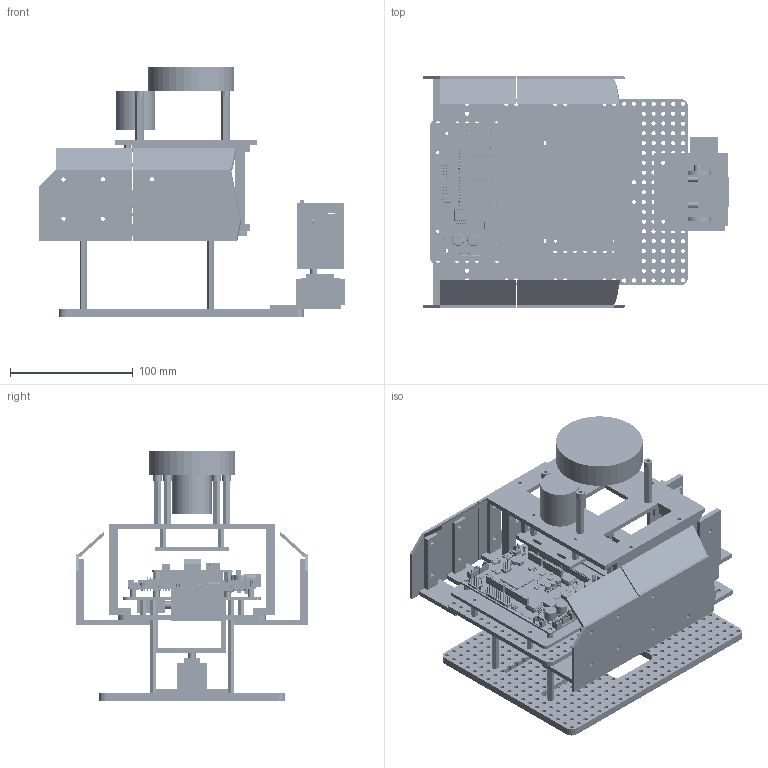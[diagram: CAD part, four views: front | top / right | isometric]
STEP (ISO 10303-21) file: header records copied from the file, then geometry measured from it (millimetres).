
FILE_DESCRIPTION(('Open CASCADE Model'),'2;1');
FILE_NAME('Open CASCADE Shape Model','2026-11-26T11:36:21',('Author'),( 'Open CASCADE'),'Open CASCADE STEP processor 8.0','build123d', 'Unknown');
FILE_SCHEMA(('AUTOMOTIVE_DESIGN { 1 0 10303 214 1 1 1 1 }'));
Length unit declared in the file: millimetre
Products named in the file (143): COMPOUND; chassis; deck; opencr_adapter; pi_adapter; pi_pcb_envelope; deck_column_0; deck_column_1; deck_column_2; deck_column_3; opencr_column_0; opencr_column_1; opencr_column_2; opencr_column_3; pi_column_0; pi_column_1; pi_column_2; pi_column_3; opencr_board_spacer_0; opencr_board_spacer_1; opencr_board_spacer_2; opencr_board_spacer_3; pi_board_spacer_0; pi_board_spacer_1; pi_board_spacer_2; pi_board_spacer_3; bridge_left; bridge_right; bridge_plate; interface_carrier; camera_base; pan_servo_envelope; audio_hat; a1_rotor_envelope; a1_motor_envelope; a1_column_0; a1_foot_envelope_0; a1_column_1; a1_foot_envelope_1; a1_column_2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
Assembly tree (142 placements, depth 3):
  COMPOUND
    chassis
    deck
    opencr_adapter
    pi_adapter
    pi_pcb_envelope
    deck_column_0
    deck_column_1
    deck_column_2
    deck_column_3
    opencr_column_0
    opencr_column_1
    opencr_column_2
    opencr_column_3
    pi_column_0
    pi_column_1
    pi_column_2
    pi_column_3
    opencr_board_spacer_0
    opencr_board_spacer_1
    opencr_board_spacer_2
    opencr_board_spacer_3
    pi_board_spacer_0
    pi_board_spacer_1
    pi_board_spacer_2
    pi_board_spacer_3
    bridge_left
    bridge_right
    bridge_plate
    interface_carrier
    camera_base
    pan_servo_envelope
    audio_hat
    a1_rotor_envelope
    a1_motor_envelope
    a1_column_0
    a1_foot_envelope_0
    a1_column_1
    a1_foot_envelope_1
    a1_column_2
    a1_foot_envelope_2
    a1_column_3
    a1_foot_envelope_3
    interface_column_0
    interface_column_1
    hat_column_0
    hat_column_1
    yoke
    tilt_servo
    cradle
    camera_pcb
    camera_front
    camera_connector
    opencr
      JST_B4B_EH_A
      TO_263_5_TabPin3
      LED_0603_1608Metric
      Part_1
      Part_1
      CP_Elec_10x10
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Bounding box: 249.5 x 188.8 x 203.5 mm (x, y, z)
Volume: 665906.9 mm3; surface area: 421760.3 mm2
Topology: 132 solids, 558 shells, 12073 faces, 32518 edges, 21655 vertices
Faces by surface type: plane 9649, cylinder 2298, torus 56, bspline 31, sphere 24, revolution 14, cone 1
Full cylindrical faces by diameter (mm): 0.5 x3, 0.6 x2, 0.7 x4, 1 x1, 1.469 x1, 1.8 x3, 2 x2, 2.4 x8, 2.5 x22, 2.7 x12, 3.2 x10, 3.3 x4, 3.4 x783, 4 x4, 4.5 x4, 5 x14, 5.3 x1, 6 x2, 6.4 x2, 6.5 x1, 7 x4, 8 x4, 9.983 x1, 10 x4, 32 x1, 70.6 x1
Entity records: 808196 total; most frequent: CARTESIAN_POINT 157345, DIRECTION 121613, LINE 84199, VECTOR 84199, ORIENTED_EDGE 62428, PCURVE 62428, DEFINITIONAL_REPRESENTATION 62428, EDGE_CURVE 32484
